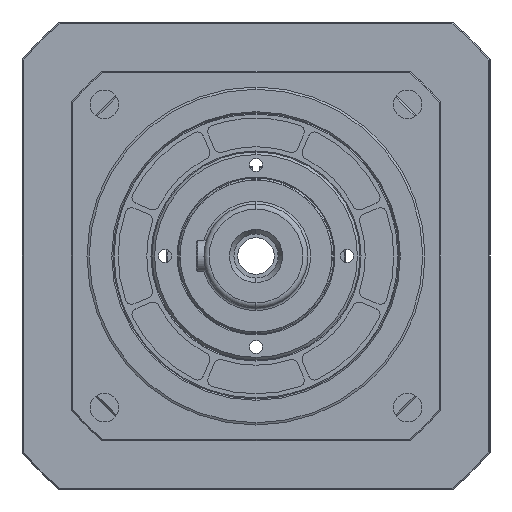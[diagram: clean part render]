
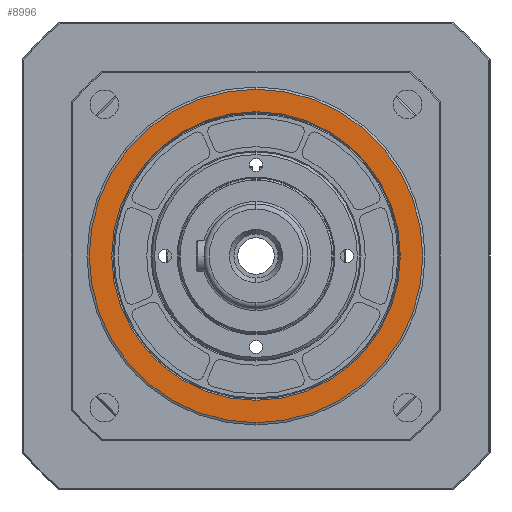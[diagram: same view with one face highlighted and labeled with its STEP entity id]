
A CAD part, left-side view. The second image highlights one B-rep face of the part: STEP entity #8996.
In plain terms, the highlighted planar face has unit normal (-1, 0, 0).
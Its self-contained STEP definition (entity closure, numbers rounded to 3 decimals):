
#1750 = DIRECTION ( 'NONE',  ( 0., 0., -1. ) ) ;
#1783 = DIRECTION ( 'NONE',  ( 1., 0., 0. ) ) ;
#1817 = CARTESIAN_POINT ( 'NONE',  ( 100., 55., 0. ) ) ;
#1862 = PLANE ( 'NONE',  #10901 ) ;
#2764 = CIRCLE ( 'NONE', #10262, 55.5 ) ;
#3374 = VERTEX_POINT ( 'NONE', #4299 ) ;
#3378 = CIRCLE ( 'NONE', #10288, 64.134 ) ;
#3591 = VERTEX_POINT ( 'NONE', #4087 ) ;
#3905 = CIRCLE ( 'NONE', #10248, 55.5 ) ;
#4087 = CARTESIAN_POINT ( 'NONE',  ( 100., 0., -55.5 ) ) ;
#4299 = CARTESIAN_POINT ( 'NONE',  ( 100., 0., -64.134 ) ) ;
#4454 = VERTEX_POINT ( 'NONE', #4750 ) ;
#4504 = VERTEX_POINT ( 'NONE', #17338 ) ;
#4750 = CARTESIAN_POINT ( 'NONE',  ( 100., 0., 55.5 ) ) ;
#6394 = DIRECTION ( 'NONE',  ( 0., 0., -1. ) ) ;
#6396 = DIRECTION ( 'NONE',  ( 1., 0., 0. ) ) ;
#6397 = CARTESIAN_POINT ( 'NONE',  ( 100., 0., 0. ) ) ;
#6472 = DIRECTION ( 'NONE',  ( 0., 0., -1. ) ) ;
#6476 = DIRECTION ( 'NONE',  ( -1., 0., 0. ) ) ;
#6620 = DIRECTION ( 'NONE',  ( 1., 0., 0. ) ) ;
#6621 = DIRECTION ( 'NONE',  ( 0., 0., -1. ) ) ;
#6623 = CARTESIAN_POINT ( 'NONE',  ( 100., 0., 0. ) ) ;
#6646 = CARTESIAN_POINT ( 'NONE',  ( 100., 0., 0. ) ) ;
#7273 = CIRCLE ( 'NONE', #15520, 64.134 ) ;
#7774 = ORIENTED_EDGE ( 'NONE', *, *, #15604, .T. ) ;
#7829 = ORIENTED_EDGE ( 'NONE', *, *, #17941, .T. ) ;
#7851 = ORIENTED_EDGE ( 'NONE', *, *, #15592, .T. ) ;
#8020 = ORIENTED_EDGE ( 'NONE', *, *, #15618, .T. ) ;
#8624 = EDGE_LOOP ( 'NONE', ( #8020, #7829 ) ) ;
#8635 = EDGE_LOOP ( 'NONE', ( #7774, #7851 ) ) ;
#8996 = ADVANCED_FACE ( 'NONE', ( #13773, #13794 ), #1862, .F. ) ;
#10248 = AXIS2_PLACEMENT_3D ( 'NONE', #6397, #6396, #6394 ) ;
#10262 = AXIS2_PLACEMENT_3D ( 'NONE', #6623, #6620, #6621 ) ;
#10288 = AXIS2_PLACEMENT_3D ( 'NONE', #6646, #6476, #6472 ) ;
#10901 = AXIS2_PLACEMENT_3D ( 'NONE', #1817, #1783, #1750 ) ;
#12718 = DIRECTION ( 'NONE',  ( 0., 0., -1. ) ) ;
#12752 = DIRECTION ( 'NONE',  ( -1., 0., 0. ) ) ;
#12889 = CARTESIAN_POINT ( 'NONE',  ( 100., 0., 0. ) ) ;
#13773 = FACE_OUTER_BOUND ( 'NONE', #8624, .T. ) ;
#13794 = FACE_BOUND ( 'NONE', #8635, .T. ) ;
#15520 = AXIS2_PLACEMENT_3D ( 'NONE', #12889, #12752, #12718 ) ;
#15592 = EDGE_CURVE ( 'NONE', #3591, #4454, #2764, .T. ) ;
#15604 = EDGE_CURVE ( 'NONE', #4454, #3591, #3905, .T. ) ;
#15618 = EDGE_CURVE ( 'NONE', #3374, #4504, #3378, .T. ) ;
#17338 = CARTESIAN_POINT ( 'NONE',  ( 100., 0., 64.134 ) ) ;
#17941 = EDGE_CURVE ( 'NONE', #4504, #3374, #7273, .T. ) ;
